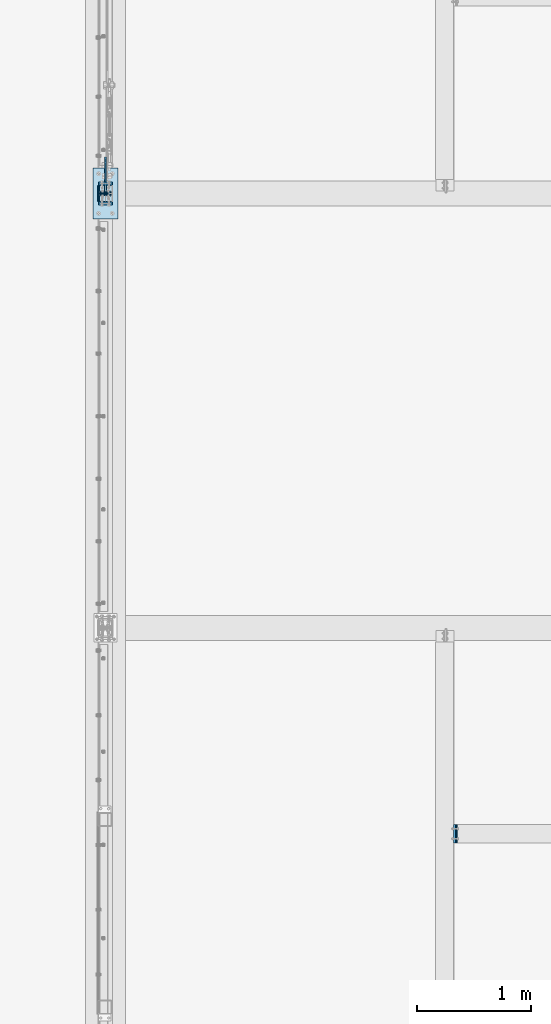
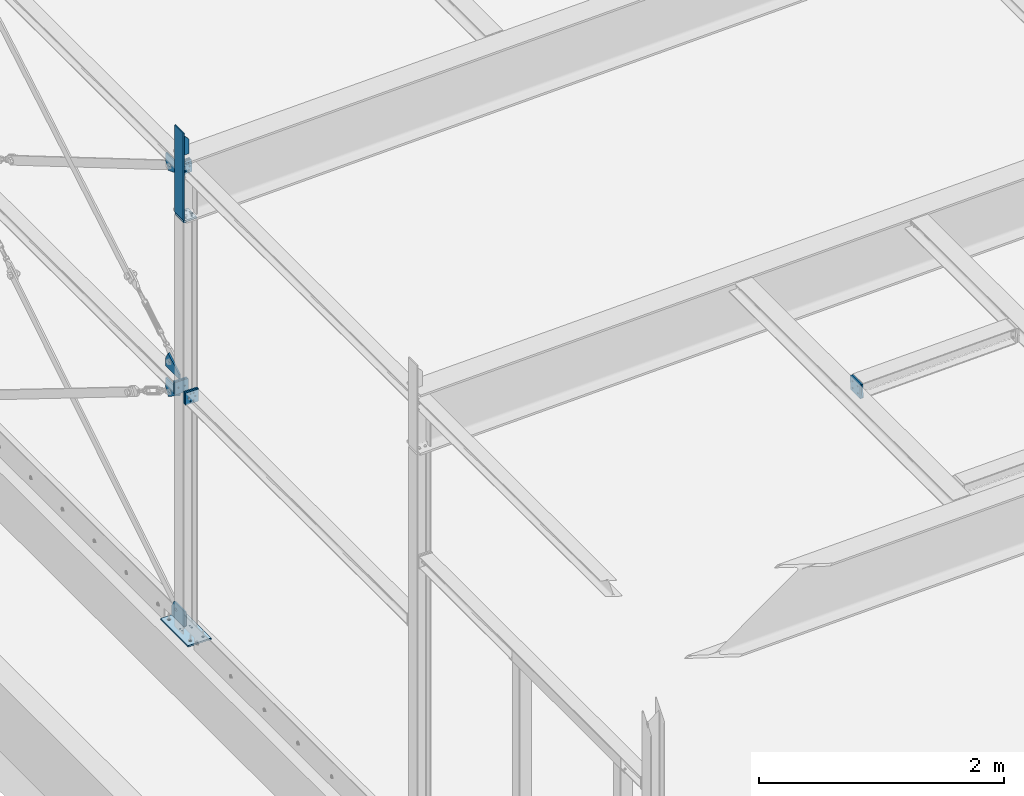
# One storey, part 38 of 476: 16 plates, 63 openings.
"""IFC2X3 building model written with IfcOpenShell, lengths in millimetres."""

from ifc_helpers import new_model, entity, si_unit, converted_unit, frame, frame_2d, origin, origin_with_axes, origin_2d_with_axis, place, context, project, spatial, polyline, circle, outline, extrude, material, layer, layer_set, element, save


model = new_model("IFC2X3")

# Units and contexts
model_context = context("Model", 3, precision=1e-09, world=origin_with_axes())
ifc_project = project(units=[si_unit("LENGTHUNIT", "METRE", prefix="MILLI"), si_unit("AREAUNIT", "SQUARE_METRE"), si_unit("VOLUMEUNIT", "CUBIC_METRE"), converted_unit("PLANEANGLEUNIT", "DEGREE", entity("IfcPlaneAngleMeasure", 0.01745329), si_unit("PLANEANGLEUNIT", "RADIAN"), dimensions=[0, 0, 0, 0, 0, 0, 0])], contexts=[model_context])

# Site, building, storey
site_placement = place(None, origin_with_axes())
site = spatial("IfcSite", under=ifc_project, at=site_placement, Name="mKR Teilneubau & Sanierung BA1 - Ostfildern", CompositionType="ELEMENT")
building_placement = place(site_placement, origin_with_axes())
building = spatial("IfcBuilding", under=site, at=building_placement, Name="Struktur 1", CompositionType="ELEMENT")
storey_placement = place(building_placement, origin_with_axes())
storey = spatial("IfcBuildingStorey", under=building, at=storey_placement, Name="Default Storey", CompositionType="ELEMENT", Elevation=0.0)

# Plate, openings
ifc_material = material(Name="S235JR")
ifc_layer_1 = layer(ifc_material, 15.0)
ifc_layer_set_1 = layer_set([ifc_layer_1], Name="S235JR")
plate_1_placement = place(None, frame((8173.108764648, -9760.67387897, 543.087909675), z_axis=(1.0, 0.0, 0.0), x_axis=(0.0, 1.0, 0.0)))
plate_1 = element("IfcPlate", 1, at=plate_1_placement, inside=storey, material=ifc_layer_set_1, Name="-", ObjectType="-", context=model_context, shape_type="SweptSolid", body=[
    extrude(outline(polyline([(-2.25, 1.912090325), (220.0, 1.912090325), (220.0, 94.372336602), (177.838923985, 162.360892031), (-2.25, 162.360892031), (-2.25, 1.912090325)])), origin_with_axes(), (0.0, 0.0, -1.0), 15.0),
])
opening_1_placement = place(plate_1_placement, frame((-2.25, 1.912090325, 0.01), z_axis=(0.0, 0.0, 1.0), x_axis=(1.0, 0.0, 0.0)))
element("IfcOpeningElement", 2, at=opening_1_placement, cuts=plate_1, ObjectType="Opening", context=model_context, shape_type="SweptSolid", body=[
    extrude(outline(polyline([(0.0, 0.0), (20.0, 0.0), (0.0, 20.0), (0.0, 0.0)])), origin(), (0.0, 0.0, -1.0), 15.02),
])
opening_2_placement = place(plate_1_placement, frame((163.929045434, 96.745807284, 0.5), z_axis=(0.0, 0.0, 1.0), x_axis=(1.0, 0.0, 0.0)))
element("IfcOpeningElement", 3, at=opening_2_placement, cuts=plate_1, ObjectType="Opening", context=model_context, shape_type="SweptSolid", body=[
    extrude(circle(Radius=16.001, at=frame_2d((-16.001, 0.0), x_axis=(1.0, 0.0))), origin(), (0.0, 0.0, -1.0), 16.0),
])

ifc_layer_2 = layer(ifc_material, 10.0)
ifc_layer_set_2 = layer_set([ifc_layer_2], Name="S235JR")
plate_2_placement = place(None, frame((8189.108764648, -9760.67387897, 5472.548796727), z_axis=(0.0, -1.0, 0.0), x_axis=(-1.0, 0.0, 0.0)))
plate_2 = element("IfcPlate", 4, at=plate_2_placement, inside=storey, material=ifc_layer_set_2, Name="-", ObjectType="-", context=model_context, shape_type="SweptSolid", body=[
    extrude(outline(polyline([(0.0, 0.0), (80.0, 0.0), (80.0, 200.0), (0.0, 197.595559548), (0.0, 0.0)])), origin_with_axes(), (0.0, 0.0, 1.0), 10.0),
])
opening_3_placement = place(plate_2_placement, frame((0.0, 0.0, -0.01), z_axis=(0.0, 0.0, 1.0), x_axis=(1.0, 0.0, 0.0)))
element("IfcOpeningElement", 5, at=opening_3_placement, cuts=plate_2, ObjectType="Opening", context=model_context, shape_type="SweptSolid", body=[
    extrude(outline(polyline([(0.0, 0.0), (50.0, 0.0), (0.0, 50.0), (0.0, 0.0)])), origin(), (0.0, 0.0, 1.0), 10.02),
])
opening_4_placement = place(plate_2_placement, frame((0.0, 0.0, -0.01), z_axis=(0.0, 0.0, 1.0), x_axis=(1.0, 0.0, 0.0)))
element("IfcOpeningElement", 6, at=opening_4_placement, cuts=plate_2, ObjectType="Opening", context=model_context, shape_type="SweptSolid", body=[
    extrude(outline(polyline([(80.0, 200.0), (60.009027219, 199.399161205), (80.0, 180.0), (80.0, 200.0)])), origin(), (0.0, 0.0, 1.0), 10.02),
])

# Plate, opening
plate_3_placement = place(None, frame((8158.108780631, -9665.67287897, 2969.000017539), z_axis=(1.0, 0.0, 0.0), x_axis=(0.0, 1.0, 0.0)))
plate_3 = element("IfcPlate", 7, at=plate_3_placement, inside=storey, material=ifc_layer_set_1, Name="-", ObjectType="-", context=model_context, shape_type="SweptSolid", body=[
    extrude(outline(polyline([(0.0, 0.0), (220.0, 0.0), (220.0, 84.822897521), (179.439368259, 153.778210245), (0.0, 48.229067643), (0.0, 0.0)])), origin_with_axes(), (0.0, 0.0, 1.0), 15.0),
])
opening_5_placement = place(plate_3_placement, frame((148.003199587, 88.880080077, 15.5), z_axis=(0.0, 0.0, -1.0), x_axis=(-1.0, 0.0, 0.0)))
element("IfcOpeningElement", 8, at=opening_5_placement, cuts=plate_3, ObjectType="Opening", context=model_context, shape_type="SweptSolid", body=[
    extrude(circle(Radius=16.001, at=origin_2d_with_axis()), origin(), (0.0, 0.0, 1.0), 16.0),
])

plate_4_placement = place(None, frame((8173.108780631, -9665.67287897, 2855.000017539), z_axis=(-1.0, 0.0, 0.0), x_axis=(0.0, 1.0, 0.0)))
plate_4 = element("IfcPlate", 9, at=plate_4_placement, inside=storey, material=ifc_layer_set_1, Name="-", ObjectType="-", context=model_context, shape_type="SweptSolid", body=[
    extrude(outline(polyline([(0.0, 0.0), (220.0, 0.0), (220.0, 94.372336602), (177.838923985, 162.360892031), (0.0, 52.079384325), (0.0, 0.0)])), origin_with_axes(), (0.0, 0.0, 1.0), 15.0),
])
opening_6_placement = place(plate_4_placement, frame((147.928045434, 96.745807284, -0.5), z_axis=(0.0, 0.0, 1.0), x_axis=(-1.0, 0.0, 0.0)))
element("IfcOpeningElement", 10, at=opening_6_placement, cuts=plate_4, ObjectType="Opening", context=model_context, shape_type="SweptSolid", body=[
    extrude(circle(Radius=16.001, at=origin_2d_with_axis()), origin(), (0.0, 0.0, 1.0), 16.0),
])

plate_5_placement = place(None, frame((8173.108780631, -9665.67287897, 5100.220330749), z_axis=(-1.0, 0.0, 0.0), x_axis=(0.0, 1.0, 0.0)))
plate_5 = element("IfcPlate", 11, at=plate_5_placement, inside=storey, material=ifc_layer_set_1, Name="-", ObjectType="-", context=model_context, shape_type="SweptSolid", body=[
    extrude(outline(polyline([(-82.0, 0.0), (220.0, 0.0), (220.0, 84.822897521), (179.439368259, 153.778210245), (-82.0, 50.0), (-82.0, 0.0)])), origin_with_axes(), (0.0, 0.0, 1.0), 15.0),
])
opening_7_placement = place(plate_5_placement, frame((148.003506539, 88.879487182, -0.5), z_axis=(0.0, 0.0, 1.0), x_axis=(-1.0, 0.0, 0.0)))
element("IfcOpeningElement", 12, at=opening_7_placement, cuts=plate_5, ObjectType="Opening", context=model_context, shape_type="SweptSolid", body=[
    extrude(circle(Radius=16.001, at=origin_2d_with_axis()), origin(), (0.0, 0.0, 1.0), 16.0),
])

# Plate, openings
plate_6_placement = place(None, frame((11259.887346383, -15395.673034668, 5291.208635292), z_axis=(-0.999549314, 0.0, -0.030019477), x_axis=(0.030019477, 0.0, -0.999549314)))
plate_6 = element("IfcPlate", 13, at=plate_6_placement, inside=storey, material=ifc_layer_set_1, Name="Endplate#1", ObjectType="Endplate#1", context=model_context, shape_type="SweptSolid", body=[
    extrude(outline(polyline([(-70.0, -80.0), (70.0, -80.0), (70.0, 80.0), (-70.0, 80.0), (-70.0, -80.0)])), origin_with_axes(), (0.0, 0.0, 1.0), 15.0),
])
opening_8_placement = place(plate_6_placement, frame((52.0, -18.0, 15.5), z_axis=(0.0, 0.0, -1.0), x_axis=(1.0, 0.0, 0.0)))
element("IfcOpeningElement", 14, at=opening_8_placement, cuts=plate_6, ObjectType="Opening", context=model_context, shape_type="SweptSolid", body=[
    extrude(circle(Radius=6.001, at=origin_2d_with_axis()), origin(), (0.0, 0.0, 1.0), 16.0),
])
opening_9_placement = place(plate_6_placement, frame((-52.0, -18.0, 15.5), z_axis=(0.0, 0.0, -1.0), x_axis=(1.0, 0.0, 0.0)))
element("IfcOpeningElement", 15, at=opening_9_placement, cuts=plate_6, ObjectType="Opening", context=model_context, shape_type="SweptSolid", body=[
    extrude(circle(Radius=6.001, at=origin_2d_with_axis()), origin(), (0.0, 0.0, 1.0), 16.0),
])
opening_10_placement = place(plate_6_placement, frame((-52.0, 18.0, 15.5), z_axis=(0.0, 0.0, -1.0), x_axis=(1.0, 0.0, 0.0)))
element("IfcOpeningElement", 16, at=opening_10_placement, cuts=plate_6, ObjectType="Opening", context=model_context, shape_type="SweptSolid", body=[
    extrude(circle(Radius=6.001, at=origin_2d_with_axis()), origin(), (0.0, 0.0, 1.0), 16.0),
])
opening_11_placement = place(plate_6_placement, frame((52.0, 18.0, 15.5), z_axis=(0.0, 0.0, -1.0), x_axis=(1.0, 0.0, 0.0)))
element("IfcOpeningElement", 17, at=opening_11_placement, cuts=plate_6, ObjectType="Opening", context=model_context, shape_type="SweptSolid", body=[
    extrude(circle(Radius=6.001, at=origin_2d_with_axis()), origin(), (0.0, 0.0, 1.0), 16.0),
])
opening_12_placement = place(plate_6_placement, frame((35.0, 43.0, 15.5), z_axis=(0.0, 0.0, -1.0), x_axis=(-1.0, 0.0, 0.0)))
element("IfcOpeningElement", 18, at=opening_12_placement, cuts=plate_6, ObjectType="Opening", context=model_context, shape_type="SweptSolid", body=[
    extrude(circle(Radius=7.001, at=frame_2d((70.0, 0.0), x_axis=(1.0, 0.0))), origin(), (0.0, 0.0, 1.0), 16.0),
])
opening_13_placement = place(plate_6_placement, frame((35.0, 43.0, 15.5), z_axis=(0.0, 0.0, -1.0), x_axis=(-1.0, 0.0, 0.0)))
element("IfcOpeningElement", 19, at=opening_13_placement, cuts=plate_6, ObjectType="Opening", context=model_context, shape_type="SweptSolid", body=[
    extrude(circle(Radius=7.001, at=origin_2d_with_axis()), origin(), (0.0, 0.0, 1.0), 16.0),
])
opening_14_placement = place(plate_6_placement, frame((35.0, -43.0, 15.5), z_axis=(0.0, 0.0, -1.0), x_axis=(0.0, -1.0, 0.0)))
element("IfcOpeningElement", 20, at=opening_14_placement, cuts=plate_6, ObjectType="Opening", context=model_context, shape_type="SweptSolid", body=[
    extrude(circle(Radius=7.001, at=frame_2d((0.0, 70.0), x_axis=(1.0, 0.0))), origin(), (0.0, 0.0, 1.0), 16.0),
])
opening_15_placement = place(plate_6_placement, frame((35.0, -43.0, 15.5), z_axis=(0.0, 0.0, -1.0), x_axis=(0.0, -1.0, 0.0)))
element("IfcOpeningElement", 21, at=opening_15_placement, cuts=plate_6, ObjectType="Opening", context=model_context, shape_type="SweptSolid", body=[
    extrude(circle(Radius=7.001, at=origin_2d_with_axis()), origin(), (0.0, 0.0, 1.0), 16.0),
])

plate_7_placement = place(None, frame((11229.900866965, -15395.673034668, 5290.308050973), z_axis=(0.999549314, 0.0, 0.030019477), x_axis=(0.0, 1.0, 0.0)))
plate_7 = element("IfcPlate", 22, at=plate_7_placement, inside=storey, material=ifc_layer_set_1, Name="T-plate", ObjectType="T-plate", context=model_context, shape_type="SweptSolid", body=[
    extrude(outline(polyline([(-80.0, -70.0), (80.0, -70.0), (80.0, 70.0), (-80.0, 70.0), (-80.0, -70.0)])), origin_with_axes(), (0.0, 0.0, 1.0), 15.0),
])
opening_16_placement = place(plate_7_placement, frame((43.0, -35.0, -0.5), z_axis=(0.0, 0.0, 1.0), x_axis=(1.0, 0.0, 0.0)))
element("IfcOpeningElement", 23, at=opening_16_placement, cuts=plate_7, ObjectType="Opening", context=model_context, shape_type="SweptSolid", body=[
    extrude(circle(Radius=7.001, at=frame_2d((0.0, 70.0), x_axis=(1.0, 0.0))), origin(), (0.0, 0.0, 1.0), 16.0),
])
opening_17_placement = place(plate_7_placement, frame((43.0, -35.0, -0.5), z_axis=(0.0, 0.0, 1.0), x_axis=(1.0, 0.0, 0.0)))
element("IfcOpeningElement", 24, at=opening_17_placement, cuts=plate_7, ObjectType="Opening", context=model_context, shape_type="SweptSolid", body=[
    extrude(circle(Radius=7.001, at=origin_2d_with_axis()), origin(), (0.0, 0.0, 1.0), 16.0),
])
opening_18_placement = place(plate_7_placement, frame((-43.0, -35.0, -0.5), z_axis=(0.0, 0.0, 1.0), x_axis=(0.0, 1.0, 0.0)))
element("IfcOpeningElement", 25, at=opening_18_placement, cuts=plate_7, ObjectType="Opening", context=model_context, shape_type="SweptSolid", body=[
    extrude(circle(Radius=7.001, at=frame_2d((70.0, 0.0), x_axis=(1.0, 0.0))), origin(), (0.0, 0.0, 1.0), 16.0),
])
opening_19_placement = place(plate_7_placement, frame((-43.0, -35.0, -0.5), z_axis=(0.0, 0.0, 1.0), x_axis=(0.0, 1.0, 0.0)))
element("IfcOpeningElement", 26, at=opening_19_placement, cuts=plate_7, ObjectType="Opening", context=model_context, shape_type="SweptSolid", body=[
    extrude(circle(Radius=7.001, at=origin_2d_with_axis()), origin(), (0.0, 0.0, 1.0), 16.0),
])

plate_8_placement = place(None, frame((8275.608764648, -9540.67387897, 545.0), z_axis=(0.0, 0.0, -1.0), x_axis=(0.0, -1.0, 0.0)))
plate_8 = element("IfcPlate", 27, at=plate_8_placement, inside=storey, material=ifc_layer_set_1, Name="Baseplate", ObjectType="Baseplate", context=model_context, shape_type="SweptSolid", body=[
    extrude(outline(polyline([(0.0, 0.0), (450.0, 0.0), (450.0, 220.0), (0.0, 220.0), (0.0, 0.0)])), origin_with_axes(), (0.0, 0.0, 1.0), 15.0),
])
opening_20_placement = place(plate_8_placement, frame((50.0, 170.0, 15.5), z_axis=(0.0, 0.0, -1.0), x_axis=(1.0, 0.0, 0.0)))
element("IfcOpeningElement", 28, at=opening_20_placement, cuts=plate_8, ObjectType="Opening", context=model_context, shape_type="SweptSolid", body=[
    extrude(circle(Radius=11.001, at=frame_2d((350.0, 120.0), x_axis=(1.0, 0.0))), origin(), (0.0, 0.0, 1.0), 16.0),
])
opening_21_placement = place(plate_8_placement, frame((50.0, 170.0, 15.5), z_axis=(0.0, 0.0, -1.0), x_axis=(1.0, 0.0, 0.0)))
element("IfcOpeningElement", 29, at=opening_21_placement, cuts=plate_8, ObjectType="Opening", context=model_context, shape_type="SweptSolid", body=[
    extrude(circle(Radius=11.001, at=frame_2d((0.0, 120.0), x_axis=(1.0, 0.0))), origin(), (0.0, 0.0, 1.0), 16.0),
])
opening_22_placement = place(plate_8_placement, frame((50.0, 170.0, 15.5), z_axis=(0.0, 0.0, -1.0), x_axis=(1.0, 0.0, 0.0)))
element("IfcOpeningElement", 30, at=opening_22_placement, cuts=plate_8, ObjectType="Opening", context=model_context, shape_type="SweptSolid", body=[
    extrude(circle(Radius=11.001, at=frame_2d((350.0, 0.0), x_axis=(1.0, 0.0))), origin(), (0.0, 0.0, 1.0), 16.0),
])
opening_23_placement = place(plate_8_placement, frame((50.0, 170.0, 15.5), z_axis=(0.0, 0.0, -1.0), x_axis=(1.0, 0.0, 0.0)))
element("IfcOpeningElement", 31, at=opening_23_placement, cuts=plate_8, ObjectType="Opening", context=model_context, shape_type="SweptSolid", body=[
    extrude(circle(Radius=11.001, at=origin_2d_with_axis()), origin(), (0.0, 0.0, 1.0), 16.0),
])
opening_24_placement = place(plate_8_placement, frame((210.25, 156.0, 15.5), z_axis=(0.0, 0.0, -1.0), x_axis=(0.0, -1.0, 0.0)))
element("IfcOpeningElement", 32, at=opening_24_placement, cuts=plate_8, ObjectType="Opening", context=model_context, shape_type="SweptSolid", body=[
    extrude(circle(Radius=6.001, at=origin_2d_with_axis()), origin(), (0.0, 0.0, 1.0), 16.0),
])
opening_25_placement = place(plate_8_placement, frame((210.25, 64.0, 15.5), z_axis=(0.0, 0.0, -1.0), x_axis=(0.0, -1.0, 0.0)))
element("IfcOpeningElement", 33, at=opening_25_placement, cuts=plate_8, ObjectType="Opening", context=model_context, shape_type="SweptSolid", body=[
    extrude(circle(Radius=6.001, at=origin_2d_with_axis()), origin(), (0.0, 0.0, 1.0), 16.0),
])
opening_26_placement = place(plate_8_placement, frame((239.75, 64.0, 15.5), z_axis=(0.0, 0.0, -1.0), x_axis=(0.0, -1.0, 0.0)))
element("IfcOpeningElement", 34, at=opening_26_placement, cuts=plate_8, ObjectType="Opening", context=model_context, shape_type="SweptSolid", body=[
    extrude(circle(Radius=6.001, at=origin_2d_with_axis()), origin(), (0.0, 0.0, 1.0), 16.0),
])
opening_27_placement = place(plate_8_placement, frame((239.75, 156.0, 15.5), z_axis=(0.0, 0.0, -1.0), x_axis=(0.0, -1.0, 0.0)))
element("IfcOpeningElement", 35, at=opening_27_placement, cuts=plate_8, ObjectType="Opening", context=model_context, shape_type="SweptSolid", body=[
    extrude(circle(Radius=6.001, at=origin_2d_with_axis()), origin(), (0.0, 0.0, 1.0), 16.0),
])

plate_9_placement = place(None, frame((8165.608780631, -9665.67387897, 2912.000017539), z_axis=(0.0, -1.0, 0.0), x_axis=(0.0, 0.0, -1.0)))
plate_9 = element("IfcPlate", 36, at=plate_9_placement, inside=storey, material=ifc_layer_set_1, Name="Endplate#1", ObjectType="Endplate#1", context=model_context, shape_type="SweptSolid", body=[
    extrude(outline(polyline([(-62.0, -62.0), (62.0, -62.0), (62.0, 62.0), (-62.0, 62.0), (-62.0, -62.0)])), origin_with_axes(), (0.0, 0.0, 1.0), 15.0),
])
opening_28_placement = place(plate_9_placement, frame((37.0, -14.5, 15.5), z_axis=(0.0, 0.0, -1.0), x_axis=(1.0, 0.0, 0.0)))
element("IfcOpeningElement", 37, at=opening_28_placement, cuts=plate_9, ObjectType="Opening", context=model_context, shape_type="SweptSolid", body=[
    extrude(circle(Radius=6.001, at=origin_2d_with_axis()), origin(), (0.0, 0.0, 1.0), 16.0),
])
opening_29_placement = place(plate_9_placement, frame((-37.0, -14.5, 15.5), z_axis=(0.0, 0.0, -1.0), x_axis=(1.0, 0.0, 0.0)))
element("IfcOpeningElement", 38, at=opening_29_placement, cuts=plate_9, ObjectType="Opening", context=model_context, shape_type="SweptSolid", body=[
    extrude(circle(Radius=6.001, at=origin_2d_with_axis()), origin(), (0.0, 0.0, 1.0), 16.0),
])
opening_30_placement = place(plate_9_placement, frame((-37.0, 14.5, 15.5), z_axis=(0.0, 0.0, -1.0), x_axis=(1.0, 0.0, 0.0)))
element("IfcOpeningElement", 39, at=opening_30_placement, cuts=plate_9, ObjectType="Opening", context=model_context, shape_type="SweptSolid", body=[
    extrude(circle(Radius=6.001, at=origin_2d_with_axis()), origin(), (0.0, 0.0, 1.0), 16.0),
])
opening_31_placement = place(plate_9_placement, frame((37.0, 14.5, 15.5), z_axis=(0.0, 0.0, -1.0), x_axis=(1.0, 0.0, 0.0)))
element("IfcOpeningElement", 40, at=opening_31_placement, cuts=plate_9, ObjectType="Opening", context=model_context, shape_type="SweptSolid", body=[
    extrude(circle(Radius=6.001, at=origin_2d_with_axis()), origin(), (0.0, 0.0, 1.0), 16.0),
])
opening_32_placement = place(plate_9_placement, frame((0.0, -30.0, 15.5), z_axis=(0.0, 0.0, -1.0), x_axis=(0.0, -1.0, 0.0)))
element("IfcOpeningElement", 41, at=opening_32_placement, cuts=plate_9, ObjectType="Opening", context=model_context, shape_type="SweptSolid", body=[
    extrude(circle(Radius=7.001, at=origin_2d_with_axis()), origin(), (0.0, 0.0, 1.0), 16.0),
])
opening_33_placement = place(plate_9_placement, frame((0.0, 30.0, 15.5), z_axis=(0.0, 0.0, -1.0), x_axis=(-1.0, 0.0, 0.0)))
element("IfcOpeningElement", 42, at=opening_33_placement, cuts=plate_9, ObjectType="Opening", context=model_context, shape_type="SweptSolid", body=[
    extrude(circle(Radius=7.001, at=origin_2d_with_axis()), origin(), (0.0, 0.0, 1.0), 16.0),
])

plate_10_placement = place(None, frame((8165.608764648, -9695.67387897, 2912.000017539), z_axis=(0.0, 1.0, 0.0), x_axis=(1.0, 0.0, 0.0)))
plate_10 = element("IfcPlate", 43, at=plate_10_placement, inside=storey, material=ifc_layer_set_1, Name="T-plate", ObjectType="T-plate", context=model_context, shape_type="SweptSolid", body=[
    extrude(outline(polyline([(-62.0, -62.0), (62.0, -62.0), (62.0, 62.0), (-62.0, 62.0), (-62.0, -62.0)])), origin_with_axes(), (0.0, 0.0, 1.0), 15.0),
])
opening_34_placement = place(plate_10_placement, frame((30.000015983, 0.0, -0.5), z_axis=(0.0, 0.0, 1.0), x_axis=(0.0, -1.0, 0.0)))
element("IfcOpeningElement", 44, at=opening_34_placement, cuts=plate_10, ObjectType="Opening", context=model_context, shape_type="SweptSolid", body=[
    extrude(circle(Radius=7.001, at=origin_2d_with_axis()), origin(), (0.0, 0.0, 1.0), 16.0),
])
opening_35_placement = place(plate_10_placement, frame((-29.999984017, 0.0, -0.5), z_axis=(0.0, 0.0, 1.0), x_axis=(-1.0, 0.0, 0.0)))
element("IfcOpeningElement", 45, at=opening_35_placement, cuts=plate_10, ObjectType="Opening", context=model_context, shape_type="SweptSolid", body=[
    extrude(circle(Radius=7.001, at=origin_2d_with_axis()), origin(), (0.0, 0.0, 1.0), 16.0),
])

plate_11_placement = place(None, frame((8165.608780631, -9865.67387897, 2912.000017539), z_axis=(0.0, 1.0, 0.0), x_axis=(0.0, 0.0, -1.0)))
plate_11 = element("IfcPlate", 46, at=plate_11_placement, inside=storey, material=ifc_layer_set_1, Name="Endplate#1", ObjectType="Endplate#1", context=model_context, shape_type="SweptSolid", body=[
    extrude(outline(polyline([(-62.0, -62.0), (62.0, -62.0), (62.0, 62.0), (-62.0, 62.0), (-62.0, -62.0)])), origin_with_axes(), (0.0, 0.0, 1.0), 15.0),
])
opening_36_placement = place(plate_11_placement, frame((37.0, 14.5, 15.5), z_axis=(0.0, 0.0, -1.0), x_axis=(-1.0, 0.0, 0.0)))
element("IfcOpeningElement", 47, at=opening_36_placement, cuts=plate_11, ObjectType="Opening", context=model_context, shape_type="SweptSolid", body=[
    extrude(circle(Radius=6.001, at=origin_2d_with_axis()), origin(), (0.0, 0.0, 1.0), 16.0),
])
opening_37_placement = place(plate_11_placement, frame((-37.0, 14.5, 15.5), z_axis=(0.0, 0.0, -1.0), x_axis=(-1.0, 0.0, 0.0)))
element("IfcOpeningElement", 48, at=opening_37_placement, cuts=plate_11, ObjectType="Opening", context=model_context, shape_type="SweptSolid", body=[
    extrude(circle(Radius=6.001, at=origin_2d_with_axis()), origin(), (0.0, 0.0, 1.0), 16.0),
])
opening_38_placement = place(plate_11_placement, frame((-37.0, -14.5, 15.5), z_axis=(0.0, 0.0, -1.0), x_axis=(-1.0, 0.0, 0.0)))
element("IfcOpeningElement", 49, at=opening_38_placement, cuts=plate_11, ObjectType="Opening", context=model_context, shape_type="SweptSolid", body=[
    extrude(circle(Radius=6.001, at=origin_2d_with_axis()), origin(), (0.0, 0.0, 1.0), 16.0),
])
opening_39_placement = place(plate_11_placement, frame((37.0, -14.5, 15.5), z_axis=(0.0, 0.0, -1.0), x_axis=(-1.0, 0.0, 0.0)))
element("IfcOpeningElement", 50, at=opening_39_placement, cuts=plate_11, ObjectType="Opening", context=model_context, shape_type="SweptSolid", body=[
    extrude(circle(Radius=6.001, at=origin_2d_with_axis()), origin(), (0.0, 0.0, 1.0), 16.0),
])
opening_40_placement = place(plate_11_placement, frame((0.0, -30.0, 15.5), z_axis=(0.0, 0.0, -1.0), x_axis=(0.0, -1.0, 0.0)))
element("IfcOpeningElement", 51, at=opening_40_placement, cuts=plate_11, ObjectType="Opening", context=model_context, shape_type="SweptSolid", body=[
    extrude(circle(Radius=7.001, at=origin_2d_with_axis()), origin(), (0.0, 0.0, 1.0), 16.0),
])
opening_41_placement = place(plate_11_placement, frame((0.0, 30.0, 15.5), z_axis=(0.0, 0.0, -1.0), x_axis=(-1.0, 0.0, 0.0)))
element("IfcOpeningElement", 52, at=opening_41_placement, cuts=plate_11, ObjectType="Opening", context=model_context, shape_type="SweptSolid", body=[
    extrude(circle(Radius=7.001, at=origin_2d_with_axis()), origin(), (0.0, 0.0, 1.0), 16.0),
])

plate_12_placement = place(None, frame((8165.608764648, -9835.67387897, 2912.000017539), z_axis=(0.0, -1.0, 0.0), x_axis=(-1.0, 0.0, 0.0)))
plate_12 = element("IfcPlate", 53, at=plate_12_placement, inside=storey, material=ifc_layer_set_1, Name="T-plate", ObjectType="T-plate", context=model_context, shape_type="SweptSolid", body=[
    extrude(outline(polyline([(-62.0, -62.0), (62.0, -62.0), (62.0, 62.0), (-62.0, 62.0), (-62.0, -62.0)])), origin_with_axes(), (0.0, 0.0, 1.0), 15.0),
])
opening_42_placement = place(plate_12_placement, frame((-30.000015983, 0.0, -0.5), z_axis=(0.0, 0.0, 1.0), x_axis=(-1.0, 0.0, 0.0)))
element("IfcOpeningElement", 54, at=opening_42_placement, cuts=plate_12, ObjectType="Opening", context=model_context, shape_type="SweptSolid", body=[
    extrude(circle(Radius=7.001, at=origin_2d_with_axis()), origin(), (0.0, 0.0, 1.0), 16.0),
])
opening_43_placement = place(plate_12_placement, frame((29.999984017, 0.0, -0.5), z_axis=(0.0, 0.0, 1.0), x_axis=(0.0, -1.0, 0.0)))
element("IfcOpeningElement", 55, at=opening_43_placement, cuts=plate_12, ObjectType="Opening", context=model_context, shape_type="SweptSolid", body=[
    extrude(circle(Radius=7.001, at=origin_2d_with_axis()), origin(), (0.0, 0.0, 1.0), 16.0),
])

# Plate
plate_13_placement = place(None, frame((8109.108764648, -9695.67387897, 4677.27785786), z_axis=(-1.0, 0.0, 0.0), x_axis=(0.0, -1.0, 0.0)))
element("IfcPlate", 56, at=plate_13_placement, inside=storey, material=ifc_layer_set_2, Name="Coverplate", ObjectType="Coverplate", context=model_context, shape_type="SweptSolid", body=[
    extrude(outline(polyline([(0.0, 0.0), (140.0, 0.0), (140.0, 870.270938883), (0.0, 870.270938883), (0.0, 0.0)])), origin_with_axes(), (0.0, 0.0, 1.0), 10.0),
])

# Plate, openings
ifc_layer_3 = layer(ifc_material, 20.0)
ifc_layer_set_3 = layer_set([ifc_layer_3], Name="S235JR")
plate_14_placement = place(None, frame((8104.106507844, -9695.67387897, 4652.118481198), z_axis=(-0.030041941, 0.0, 0.999548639), x_axis=(0.0, -1.0, 0.0)))
plate_14 = element("IfcPlate", 57, at=plate_14_placement, inside=storey, material=ifc_layer_set_3, Name="Endplate", ObjectType="Endplate", context=model_context, shape_type="SweptSolid", body=[
    extrude(outline(polyline([(0.0, 0.0), (140.0, 0.0), (140.0, 123.060058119), (0.0, 123.060058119), (0.0, 0.0)])), origin_with_axes(), (0.0, 0.0, 1.0), 20.0),
])
opening_44_placement = place(plate_14_placement, frame((55.25, 15.503838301, 20.5), z_axis=(0.0, 0.0, -1.0), x_axis=(0.0, -1.0, 0.0)))
element("IfcOpeningElement", 58, at=opening_44_placement, cuts=plate_14, ObjectType="Opening", context=model_context, shape_type="SweptSolid", body=[
    extrude(circle(Radius=6.001, at=origin_2d_with_axis()), origin(), (0.0, 0.0, 1.0), 21.0),
])
opening_45_placement = place(plate_14_placement, frame((55.25, 107.556219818, 20.5), z_axis=(0.0, 0.0, -1.0), x_axis=(0.0, -1.0, 0.0)))
element("IfcOpeningElement", 59, at=opening_45_placement, cuts=plate_14, ObjectType="Opening", context=model_context, shape_type="SweptSolid", body=[
    extrude(circle(Radius=6.001, at=origin_2d_with_axis()), origin(), (0.0, 0.0, 1.0), 21.0),
])
opening_46_placement = place(plate_14_placement, frame((84.75, 107.556219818, 20.5), z_axis=(0.0, 0.0, -1.0), x_axis=(0.0, -1.0, 0.0)))
element("IfcOpeningElement", 60, at=opening_46_placement, cuts=plate_14, ObjectType="Opening", context=model_context, shape_type="SweptSolid", body=[
    extrude(circle(Radius=6.001, at=origin_2d_with_axis()), origin(), (0.0, 0.0, 1.0), 21.0),
])
opening_47_placement = place(plate_14_placement, frame((84.75, 15.503838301, 20.5), z_axis=(0.0, 0.0, -1.0), x_axis=(0.0, -1.0, 0.0)))
element("IfcOpeningElement", 61, at=opening_47_placement, cuts=plate_14, ObjectType="Opening", context=model_context, shape_type="SweptSolid", body=[
    extrude(circle(Radius=6.001, at=origin_2d_with_axis()), origin(), (0.0, 0.0, 1.0), 21.0),
])
opening_48_placement = place(plate_14_placement, frame((107.999, 34.03, -0.5), z_axis=(0.0, 0.0, -1.0), x_axis=(-1.0, 0.0, 0.0)))
element("IfcOpeningElement", 62, at=opening_48_placement, cuts=plate_14, ObjectType="Opening", context=model_context, shape_type="SweptSolid", body=[
    extrude(circle(Radius=7.001, at=frame_2d((-7.001, 0.0), x_axis=(1.0, 0.0))), origin(), (0.0, 0.0, -1.0), 21.0),
])
opening_49_placement = place(plate_14_placement, frame((107.999, 89.03, -0.5), z_axis=(0.0, 0.0, -1.0), x_axis=(-1.0, 0.0, 0.0)))
element("IfcOpeningElement", 63, at=opening_49_placement, cuts=plate_14, ObjectType="Opening", context=model_context, shape_type="SweptSolid", body=[
    extrude(circle(Radius=7.001, at=frame_2d((-7.001, 0.0), x_axis=(1.0, 0.0))), origin(), (0.0, 0.0, -1.0), 21.0),
])
opening_50_placement = place(plate_14_placement, frame((17.999, 34.03, -0.5), z_axis=(0.0, 0.0, -1.0), x_axis=(-1.0, 0.0, 0.0)))
element("IfcOpeningElement", 64, at=opening_50_placement, cuts=plate_14, ObjectType="Opening", context=model_context, shape_type="SweptSolid", body=[
    extrude(circle(Radius=7.001, at=frame_2d((-7.001, 0.0), x_axis=(1.0, 0.0))), origin(), (0.0, 0.0, -1.0), 21.0),
])
opening_51_placement = place(plate_14_placement, frame((17.999, 89.03, -0.5), z_axis=(0.0, 0.0, -1.0), x_axis=(-1.0, 0.0, 0.0)))
element("IfcOpeningElement", 65, at=opening_51_placement, cuts=plate_14, ObjectType="Opening", context=model_context, shape_type="SweptSolid", body=[
    extrude(circle(Radius=7.001, at=frame_2d((-7.001, 0.0), x_axis=(1.0, 0.0))), origin(), (0.0, 0.0, -1.0), 21.0),
])

ifc_layer_4 = layer(ifc_material, 12.0)
ifc_layer_set_4 = layer_set([ifc_layer_4], Name="S235JR")
plate_15_placement = place(None, frame((8118.766491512, -9759.67387897, 5217.841340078), z_axis=(0.0, 1.0, 0.0), x_axis=(0.999548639, 0.0, 0.030041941)))
plate_15 = element("IfcPlate", 66, at=plate_15_placement, inside=storey, material=ifc_layer_set_4, Name="Endplate", ObjectType="Endplate", context=model_context, shape_type="SweptSolid", body=[
    extrude(outline(polyline([(0.0, 0.0), (90.0, 0.0), (90.0, 124.0), (0.0, 124.0), (0.0, 0.0)])), origin_with_axes(), (0.0, 0.0, 1.0), 12.0),
])
opening_52_placement = place(plate_15_placement, frame((20.0, 62.0, -0.5), z_axis=(0.0, 0.0, 1.0), x_axis=(0.0, -1.0, 0.0)))
element("IfcOpeningElement", 67, at=opening_52_placement, cuts=plate_15, ObjectType="Opening", context=model_context, shape_type="SweptSolid", body=[
    extrude(circle(Radius=7.001, at=origin_2d_with_axis()), origin(), (0.0, 0.0, 1.0), 13.0),
])
opening_53_placement = place(plate_15_placement, frame((70.0, 62.0, -0.5), z_axis=(0.0, 0.0, 1.0), x_axis=(0.0, -1.0, 0.0)))
element("IfcOpeningElement", 68, at=opening_53_placement, cuts=plate_15, ObjectType="Opening", context=model_context, shape_type="SweptSolid", body=[
    extrude(circle(Radius=7.001, at=origin_2d_with_axis()), origin(), (0.0, 0.0, 1.0), 13.0),
])
opening_54_placement = place(plate_15_placement, frame((30.5, 99.0, -0.5), z_axis=(0.0, 0.0, 1.0), x_axis=(0.0, 1.0, 0.0)))
element("IfcOpeningElement", 69, at=opening_54_placement, cuts=plate_15, ObjectType="Opening", context=model_context, shape_type="SweptSolid", body=[
    extrude(circle(Radius=6.001, at=origin_2d_with_axis()), origin(), (0.0, 0.0, 1.0), 13.0),
])
opening_55_placement = place(plate_15_placement, frame((30.5, 25.0, -0.5), z_axis=(0.0, 0.0, 1.0), x_axis=(0.0, 1.0, 0.0)))
element("IfcOpeningElement", 70, at=opening_55_placement, cuts=plate_15, ObjectType="Opening", context=model_context, shape_type="SweptSolid", body=[
    extrude(circle(Radius=6.001, at=origin_2d_with_axis()), origin(), (0.0, 0.0, 1.0), 13.0),
])
opening_56_placement = place(plate_15_placement, frame((59.5, 25.0, -0.5), z_axis=(0.0, 0.0, 1.0), x_axis=(0.0, 1.0, 0.0)))
element("IfcOpeningElement", 71, at=opening_56_placement, cuts=plate_15, ObjectType="Opening", context=model_context, shape_type="SweptSolid", body=[
    extrude(circle(Radius=6.001, at=origin_2d_with_axis()), origin(), (0.0, 0.0, 1.0), 13.0),
])
opening_57_placement = place(plate_15_placement, frame((59.5, 99.0, -0.5), z_axis=(0.0, 0.0, 1.0), x_axis=(0.0, 1.0, 0.0)))
element("IfcOpeningElement", 72, at=opening_57_placement, cuts=plate_15, ObjectType="Opening", context=model_context, shape_type="SweptSolid", body=[
    extrude(circle(Radius=6.001, at=origin_2d_with_axis()), origin(), (0.0, 0.0, 1.0), 13.0),
])

plate_16_placement = place(None, frame((8208.725869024, -9771.67387897, 5220.545114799), z_axis=(0.0, -1.0, 0.0), x_axis=(-0.999548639, 0.0, -0.030041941)))
plate_16 = element("IfcPlate", 73, at=plate_16_placement, inside=storey, material=ifc_layer_set_4, Name="Endplate", ObjectType="Endplate", context=model_context, shape_type="SweptSolid", body=[
    extrude(outline(polyline([(0.0, 0.0), (90.0, 0.0), (90.0, 124.0), (0.0, 124.0), (0.0, 0.0)])), origin_with_axes(), (0.0, 0.0, 1.0), 12.0),
])
opening_58_placement = place(plate_16_placement, frame((70.0, 62.0, 12.5), z_axis=(0.0, 0.0, -1.0), x_axis=(0.0, -1.0, 0.0)))
element("IfcOpeningElement", 74, at=opening_58_placement, cuts=plate_16, ObjectType="Opening", context=model_context, shape_type="SweptSolid", body=[
    extrude(circle(Radius=7.001, at=origin_2d_with_axis()), origin(), (0.0, 0.0, 1.0), 13.0),
])
opening_59_placement = place(plate_16_placement, frame((20.0, 62.0, 12.5), z_axis=(0.0, 0.0, -1.0), x_axis=(0.0, -1.0, 0.0)))
element("IfcOpeningElement", 75, at=opening_59_placement, cuts=plate_16, ObjectType="Opening", context=model_context, shape_type="SweptSolid", body=[
    extrude(circle(Radius=7.001, at=origin_2d_with_axis()), origin(), (0.0, 0.0, 1.0), 13.0),
])
opening_60_placement = place(plate_16_placement, frame((59.5, 99.0, -0.5), z_axis=(0.0, 0.0, 1.0), x_axis=(0.0, -1.0, 0.0)))
element("IfcOpeningElement", 76, at=opening_60_placement, cuts=plate_16, ObjectType="Opening", context=model_context, shape_type="SweptSolid", body=[
    extrude(circle(Radius=6.001, at=origin_2d_with_axis()), origin(), (0.0, 0.0, 1.0), 13.0),
])
opening_61_placement = place(plate_16_placement, frame((59.5, 25.0, -0.5), z_axis=(0.0, 0.0, 1.0), x_axis=(0.0, -1.0, 0.0)))
element("IfcOpeningElement", 77, at=opening_61_placement, cuts=plate_16, ObjectType="Opening", context=model_context, shape_type="SweptSolid", body=[
    extrude(circle(Radius=6.001, at=origin_2d_with_axis()), origin(), (0.0, 0.0, 1.0), 13.0),
])
opening_62_placement = place(plate_16_placement, frame((30.5, 25.0, -0.5), z_axis=(0.0, 0.0, 1.0), x_axis=(0.0, -1.0, 0.0)))
element("IfcOpeningElement", 78, at=opening_62_placement, cuts=plate_16, ObjectType="Opening", context=model_context, shape_type="SweptSolid", body=[
    extrude(circle(Radius=6.001, at=origin_2d_with_axis()), origin(), (0.0, 0.0, 1.0), 13.0),
])
opening_63_placement = place(plate_16_placement, frame((30.5, 99.0, -0.5), z_axis=(0.0, 0.0, 1.0), x_axis=(0.0, -1.0, 0.0)))
element("IfcOpeningElement", 79, at=opening_63_placement, cuts=plate_16, ObjectType="Opening", context=model_context, shape_type="SweptSolid", body=[
    extrude(circle(Radius=6.001, at=origin_2d_with_axis()), origin(), (0.0, 0.0, 1.0), 13.0),
])

save(model, "model.ifc")
